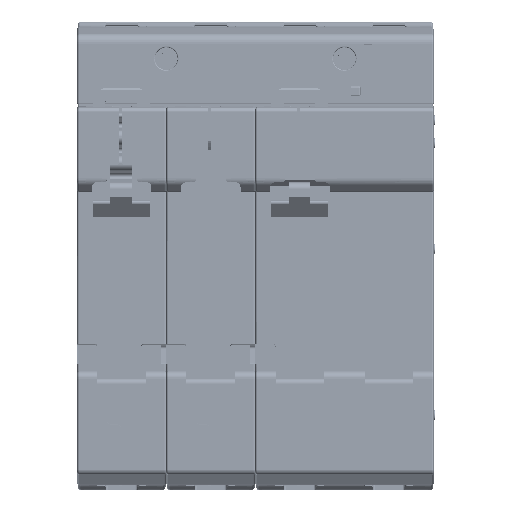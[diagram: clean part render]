
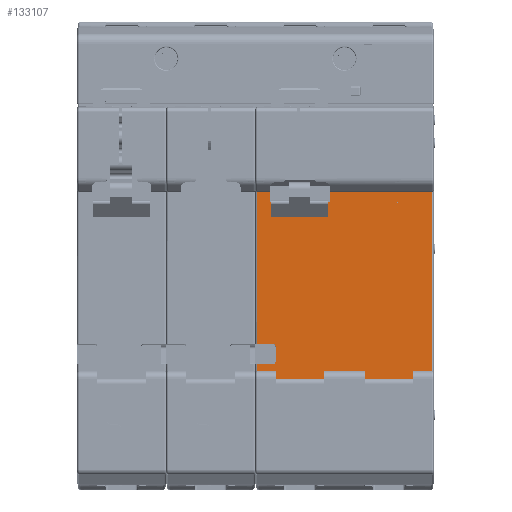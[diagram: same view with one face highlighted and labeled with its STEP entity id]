
A CAD part, top view. The second image highlights one B-rep face of the part: STEP entity #133107.
In plain terms, the highlighted planar face has unit normal (0, 0, 1).
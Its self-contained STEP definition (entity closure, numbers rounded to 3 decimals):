
#6548=DIRECTION('',(-1.,0.,0.));
#6549=VECTOR('',#6548,0.35);
#6550=CARTESIAN_POINT('',(14.75,-19.08,-2.4));
#6551=LINE('',#6550,#6549);
#7348=DIRECTION('',(-1.,0.,0.));
#7349=VECTOR('',#7348,20.25);
#7350=CARTESIAN_POINT('',(35.,-17.08,-2.4));
#7351=LINE('',#7350,#7349);
#7403=DIRECTION('',(0.,-1.,0.));
#7404=VECTOR('',#7403,2.);
#7405=CARTESIAN_POINT('',(14.75,-17.08,-2.4));
#7406=LINE('',#7405,#7404);
#7407=DIRECTION('',(0.,-1.,0.));
#7408=VECTOR('',#7407,37.);
#7409=CARTESIAN_POINT('',(35.,-17.08,-2.4));
#7410=LINE('',#7409,#7408);
#7411=DIRECTION('',(-1.,0.,0.));
#7412=VECTOR('',#7411,34.6);
#7413=CARTESIAN_POINT('',(35.,-54.08,-2.4));
#7414=LINE('',#7413,#7412);
#7415=DIRECTION('',(0.,1.,0.));
#7416=VECTOR('',#7415,2.883);
#7417=CARTESIAN_POINT('',(0.4,-54.08,-2.4));
#7418=LINE('',#7417,#7416);
#7419=DIRECTION('',(1.,0.,0.));
#7420=VECTOR('',#7419,3.1);
#7421=CARTESIAN_POINT('',(0.4,-51.197,-2.4));
#7422=LINE('',#7421,#7420);
#7423=DIRECTION('',(0.,1.,0.));
#7424=VECTOR('',#7423,3.046);
#7425=CARTESIAN_POINT('',(4.,-50.69,-2.4));
#7426=LINE('',#7425,#7424);
#7427=DIRECTION('',(1.,0.,0.));
#7428=VECTOR('',#7427,3.1);
#7429=CARTESIAN_POINT('',(0.4,-47.136,-2.4));
#7430=LINE('',#7429,#7428);
#7431=DIRECTION('',(0.,1.,0.));
#7432=VECTOR('',#7431,30.056);
#7433=CARTESIAN_POINT('',(0.4,-47.136,-2.4));
#7434=LINE('',#7433,#7432);
#7435=DIRECTION('',(0.,-1.,0.));
#7436=VECTOR('',#7435,2.);
#7437=CARTESIAN_POINT('',(2.95,-17.08,-2.4));
#7438=LINE('',#7437,#7436);
#7439=DIRECTION('',(-1.,0.,0.));
#7440=VECTOR('',#7439,11.3);
#7441=CARTESIAN_POINT('',(14.4,-19.08,-2.4));
#7442=LINE('',#7441,#7440);
#7443=CARTESIAN_POINT('',(28.05,-19.58,-2.4));
#7444=DIRECTION('',(0.,0.,1.));
#7445=DIRECTION('',(1.,0.,0.));
#7446=AXIS2_PLACEMENT_3D('',#7443,#7444,#7445);
#7448=DIRECTION('',(0.,1.,0.));
#7449=VECTOR('',#7448,0.05);
#7450=CARTESIAN_POINT('',(28.55,-19.58,-2.4));
#7451=LINE('',#7450,#7449);
#7452=DIRECTION('',(1.,0.,0.));
#7453=VECTOR('',#7452,1.);
#7454=CARTESIAN_POINT('',(27.05,-19.03,-2.4));
#7455=LINE('',#7454,#7453);
#7456=CARTESIAN_POINT('',(27.05,-18.53,-2.4));
#7457=DIRECTION('',(0.,0.,1.));
#7458=DIRECTION('',(-1.,0.,0.));
#7459=AXIS2_PLACEMENT_3D('',#7456,#7457,#7458);
#7461=DIRECTION('',(1.,0.,0.));
#7462=VECTOR('',#7461,1.);
#7463=CARTESIAN_POINT('',(27.05,-19.08,-2.4));
#7464=LINE('',#7463,#7462);
#85512=CARTESIAN_POINT('',(4.,-50.69,-2.4));
#85513=CARTESIAN_POINT('',(4.,-50.858,-2.4));
#85514=CARTESIAN_POINT('',(3.875,-51.068,-2.4));
#85515=CARTESIAN_POINT('',(3.668,-51.197,-2.4));
#85516=CARTESIAN_POINT('',(3.5,-51.197,-2.4));
#87977=DIRECTION('',(-1.,0.,0.));
#87978=VECTOR('',#87977,0.15);
#87979=CARTESIAN_POINT('',(3.1,-19.08,-2.4));
#87980=LINE('',#87979,#87978);
#88146=DIRECTION('',(-1.,0.,0.));
#88147=VECTOR('',#88146,2.55);
#88148=CARTESIAN_POINT('',(2.95,-17.08,-2.4));
#88149=LINE('',#88148,#88147);
#88164=CARTESIAN_POINT('',(3.5,-47.136,-2.4));
#88165=CARTESIAN_POINT('',(3.668,-47.136,-2.4));
#88166=CARTESIAN_POINT('',(3.875,-47.265,-2.4));
#88167=CARTESIAN_POINT('',(4.,-47.475,-2.4));
#88168=CARTESIAN_POINT('',(4.,-47.643,-2.4));
#88220=CARTESIAN_POINT('',(28.05,-19.53,-2.4));
#88221=DIRECTION('',(0.,0.,-1.));
#88222=DIRECTION('',(0.,1.,0.));
#88223=AXIS2_PLACEMENT_3D('',#88220,#88221,#88222);
#88246=CARTESIAN_POINT('',(27.05,-18.58,-2.4));
#88247=DIRECTION('',(0.,0.,-1.));
#88248=DIRECTION('',(0.,-1.,0.));
#88249=AXIS2_PLACEMENT_3D('',#88246,#88247,#88248);
#88264=DIRECTION('',(0.,-1.,0.));
#88265=VECTOR('',#88264,0.05);
#88266=CARTESIAN_POINT('',(26.55,-18.53,-2.4));
#88267=LINE('',#88266,#88265);
#105867=CARTESIAN_POINT('',(14.75,-17.08,-2.4));
#105868=CARTESIAN_POINT('',(14.75,-19.08,-2.4));
#105869=VERTEX_POINT('',#105867);
#105870=VERTEX_POINT('',#105868);
#106759=CARTESIAN_POINT('',(27.05,-19.08,-2.4));
#106760=CARTESIAN_POINT('',(28.05,-19.08,-2.4));
#106761=VERTEX_POINT('',#106759);
#106762=VERTEX_POINT('',#106760);
#106763=CARTESIAN_POINT('',(26.55,-18.58,-2.4));
#106764=VERTEX_POINT('',#106763);
#107765=CARTESIAN_POINT('',(2.95,-17.08,-2.4));
#107766=CARTESIAN_POINT('',(2.95,-19.08,-2.4));
#107767=VERTEX_POINT('',#107765);
#107768=VERTEX_POINT('',#107766);
#108240=CARTESIAN_POINT('',(4.,-50.69,-2.4));
#108241=CARTESIAN_POINT('',(4.,-47.643,-2.4));
#108242=VERTEX_POINT('',#108240);
#108243=VERTEX_POINT('',#108241);
#108244=VERTEX_POINT('',#88164);
#108245=VERTEX_POINT('',#85516);
#108459=CARTESIAN_POINT('',(0.4,-54.08,-2.4));
#108460=CARTESIAN_POINT('',(0.4,-51.197,-2.4));
#108461=VERTEX_POINT('',#108459);
#108462=VERTEX_POINT('',#108460);
#108485=CARTESIAN_POINT('',(0.4,-47.136,-2.4));
#108486=CARTESIAN_POINT('',(0.4,-17.08,-2.4));
#108487=VERTEX_POINT('',#108485);
#108488=VERTEX_POINT('',#108486);
#113160=CARTESIAN_POINT('',(28.05,-19.03,-2.4));
#113161=CARTESIAN_POINT('',(28.55,-19.53,-2.4));
#113162=VERTEX_POINT('',#113160);
#113163=VERTEX_POINT('',#113161);
#113164=CARTESIAN_POINT('',(27.05,-19.03,-2.4));
#113165=VERTEX_POINT('',#113164);
#113481=CARTESIAN_POINT('',(35.,-17.08,-2.4));
#113482=CARTESIAN_POINT('',(35.,-54.08,-2.4));
#113483=VERTEX_POINT('',#113481);
#113484=VERTEX_POINT('',#113482);
#114349=CARTESIAN_POINT('',(26.55,-18.53,-2.4));
#114351=VERTEX_POINT('',#114349);
#114591=CARTESIAN_POINT('',(28.55,-19.58,-2.4));
#114593=VERTEX_POINT('',#114591);
#124123=CARTESIAN_POINT('',(14.4,-19.08,-2.4));
#124124=CARTESIAN_POINT('',(3.1,-19.08,-2.4));
#124125=VERTEX_POINT('',#124123);
#124126=VERTEX_POINT('',#124124);
#133056=CARTESIAN_POINT('',(17.7,-54.08,-2.4));
#133057=DIRECTION('',(0.,0.,1.));
#133058=DIRECTION('',(0.,1.,0.));
#133059=AXIS2_PLACEMENT_3D('',#133056,#133057,#133058);
#133060=PLANE('',#133059);
#133061=ORIENTED_EDGE('',*,*,#132046,.F.);
#133062=ORIENTED_EDGE('',*,*,#132069,.F.);
#133063=ORIENTED_EDGE('',*,*,#132978,.F.);
#133064=ORIENTED_EDGE('',*,*,#133005,.T.);
#133065=ORIENTED_EDGE('',*,*,#133030,.T.);
#133067=ORIENTED_EDGE('',*,*,#133066,.T.);
#133068=ORIENTED_EDGE('',*,*,#129350,.T.);
#133070=ORIENTED_EDGE('',*,*,#133069,.F.);
#133072=ORIENTED_EDGE('',*,*,#133071,.T.);
#133074=ORIENTED_EDGE('',*,*,#133073,.F.);
#133076=ORIENTED_EDGE('',*,*,#133075,.F.);
#133078=ORIENTED_EDGE('',*,*,#133077,.T.);
#133080=ORIENTED_EDGE('',*,*,#133079,.F.);
#133082=ORIENTED_EDGE('',*,*,#133081,.T.);
#133084=ORIENTED_EDGE('',*,*,#133083,.F.);
#133086=ORIENTED_EDGE('',*,*,#133085,.F.);
#133087=EDGE_LOOP('',(#133061,#133062,#133063,#133064,#133065,#133067,#133068,
#133070,#133072,#133074,#133076,#133078,#133080,#133082,#133084,#133086));
#133088=FACE_OUTER_BOUND('',#133087,.F.);
#133090=ORIENTED_EDGE('',*,*,#133089,.F.);
#133092=ORIENTED_EDGE('',*,*,#133091,.T.);
#133094=ORIENTED_EDGE('',*,*,#133093,.F.);
#133096=ORIENTED_EDGE('',*,*,#133095,.F.);
#133098=ORIENTED_EDGE('',*,*,#133097,.F.);
#133100=ORIENTED_EDGE('',*,*,#133099,.T.);
#133102=ORIENTED_EDGE('',*,*,#133101,.F.);
#133104=ORIENTED_EDGE('',*,*,#133103,.T.);
#133105=EDGE_LOOP('',(#133090,#133092,#133094,#133096,#133098,#133100,#133102,
#133104));
#133106=FACE_BOUND('',#133105,.F.);
#133107=ADVANCED_FACE('',(#133088,#133106),#133060,.T.);
#7447=CIRCLE('',#7446,0.5);
#7460=CIRCLE('',#7459,0.5);
#85517=B_SPLINE_CURVE_WITH_KNOTS('',3,(#85512,#85513,#85514,#85515,#85516),
.UNSPECIFIED.,.F.,.F.,(4,1,4),(0.,0.5,1.),.UNSPECIFIED.);
#88169=B_SPLINE_CURVE_WITH_KNOTS('',3,(#88164,#88165,#88166,#88167,#88168),
.UNSPECIFIED.,.F.,.F.,(4,1,4),(0.,0.5,1.),.UNSPECIFIED.);
#88224=CIRCLE('',#88223,0.5);
#88250=CIRCLE('',#88249,0.5);
#129350=EDGE_CURVE('',#108462,#108245,#7422,.T.);
#132046=EDGE_CURVE('',#105870,#124125,#6551,.T.);
#132069=EDGE_CURVE('',#105869,#105870,#7406,.T.);
#132978=EDGE_CURVE('',#113483,#105869,#7351,.T.);
#133005=EDGE_CURVE('',#113483,#113484,#7410,.T.);
#133030=EDGE_CURVE('',#113484,#108461,#7414,.T.);
#133066=EDGE_CURVE('',#108461,#108462,#7418,.T.);
#133069=EDGE_CURVE('',#108242,#108245,#85517,.T.);
#133071=EDGE_CURVE('',#108242,#108243,#7426,.T.);
#133073=EDGE_CURVE('',#108244,#108243,#88169,.T.);
#133075=EDGE_CURVE('',#108487,#108244,#7430,.T.);
#133077=EDGE_CURVE('',#108487,#108488,#7434,.T.);
#133079=EDGE_CURVE('',#107767,#108488,#88149,.T.);
#133081=EDGE_CURVE('',#107767,#107768,#7438,.T.);
#133083=EDGE_CURVE('',#124126,#107768,#87980,.T.);
#133085=EDGE_CURVE('',#124125,#124126,#7442,.T.);
#133089=EDGE_CURVE('',#114593,#106762,#7447,.T.);
#133091=EDGE_CURVE('',#114593,#113163,#7451,.T.);
#133093=EDGE_CURVE('',#113162,#113163,#88224,.T.);
#133095=EDGE_CURVE('',#113165,#113162,#7455,.T.);
#133097=EDGE_CURVE('',#114351,#113165,#7460,.T.);
#133099=EDGE_CURVE('',#114351,#106764,#88267,.T.);
#133101=EDGE_CURVE('',#106761,#106764,#88250,.T.);
#133103=EDGE_CURVE('',#106761,#106762,#7464,.T.);
